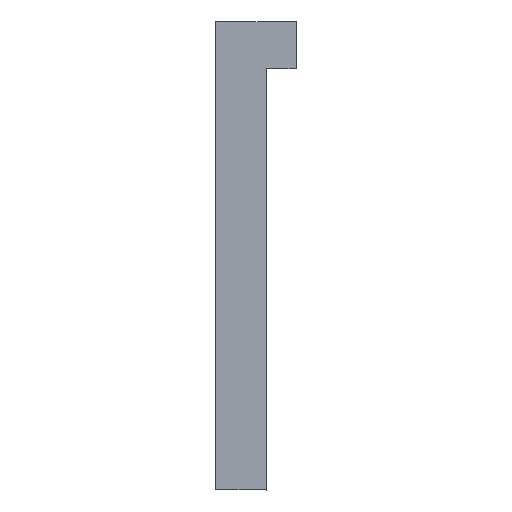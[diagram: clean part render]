
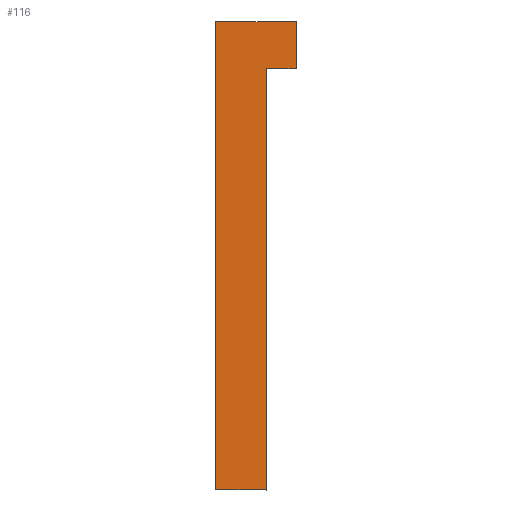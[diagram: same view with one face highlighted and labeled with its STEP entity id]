
A CAD part, left-side view. The second image highlights one B-rep face of the part: STEP entity #116.
In plain terms, the highlighted planar face has unit normal (-1, 0, 0).
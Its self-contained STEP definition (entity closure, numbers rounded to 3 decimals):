
#116=ADVANCED_FACE('',(#249),#251,.F.);
#249=FACE_BOUND('',#250,.T.);
#250=EDGE_LOOP('',(#319,#320,#321,#322,#323,#324));
#251=PLANE('',#252);
#252=AXIS2_PLACEMENT_3D('',#253,#254,#255);
#253=CARTESIAN_POINT('',(-280.,0.,0.));
#254=DIRECTION('',(1.,0.,0.));
#255=DIRECTION('',(0.,1.,0.));
#319=ORIENTED_EDGE('',*,*,#365,.F.);
#320=ORIENTED_EDGE('',*,*,#347,.F.);
#321=ORIENTED_EDGE('',*,*,#366,.F.);
#322=ORIENTED_EDGE('',*,*,#356,.F.);
#323=ORIENTED_EDGE('',*,*,#367,.F.);
#324=ORIENTED_EDGE('',*,*,#368,.F.);
#347=EDGE_CURVE('',#375,#376,#377,.T.);
#356=EDGE_CURVE('',#393,#394,#395,.T.);
#365=EDGE_CURVE('',#376,#411,#412,.T.);
#366=EDGE_CURVE('',#394,#375,#413,.T.);
#367=EDGE_CURVE('',#414,#393,#415,.T.);
#368=EDGE_CURVE('',#411,#414,#416,.T.);
#375=VERTEX_POINT('',#425);
#376=VERTEX_POINT('',#426);
#377=LINE('',#427,#428);
#393=VERTEX_POINT('',#466);
#394=VERTEX_POINT('',#467);
#395=LINE('',#468,#469);
#411=VERTEX_POINT('',#507);
#412=LINE('',#508,#509);
#413=LINE('',#511,#512);
#414=VERTEX_POINT('',#514);
#415=LINE('',#515,#516);
#416=LINE('',#518,#519);
#425=CARTESIAN_POINT('',(-280.,0.,-25.));
#426=CARTESIAN_POINT('',(-280.,0.,0.));
#427=CARTESIAN_POINT('',(-280.,0.,-25.));
#428=VECTOR('',#429,1.);
#429=DIRECTION('',(0.,0.,1.));
#466=CARTESIAN_POINT('',(-280.,-2.7,-2.5));
#467=CARTESIAN_POINT('',(-280.,-2.7,-25.));
#468=CARTESIAN_POINT('',(-280.,-2.7,-2.5));
#469=VECTOR('',#470,1.);
#470=DIRECTION('',(0.,0.,-1.));
#507=CARTESIAN_POINT('',(-280.,-4.3,0.));
#508=CARTESIAN_POINT('',(-280.,0.,0.));
#509=VECTOR('',#510,1.);
#510=DIRECTION('',(0.,-1.,0.));
#511=CARTESIAN_POINT('',(-280.,-2.7,-25.));
#512=VECTOR('',#513,1.);
#513=DIRECTION('',(0.,1.,0.));
#514=CARTESIAN_POINT('',(-280.,-4.3,-2.5));
#515=CARTESIAN_POINT('',(-280.,-4.3,-2.5));
#516=VECTOR('',#517,1.);
#517=DIRECTION('',(0.,1.,0.));
#518=CARTESIAN_POINT('',(-280.,-4.3,0.));
#519=VECTOR('',#520,1.);
#520=DIRECTION('',(0.,0.,-1.));
